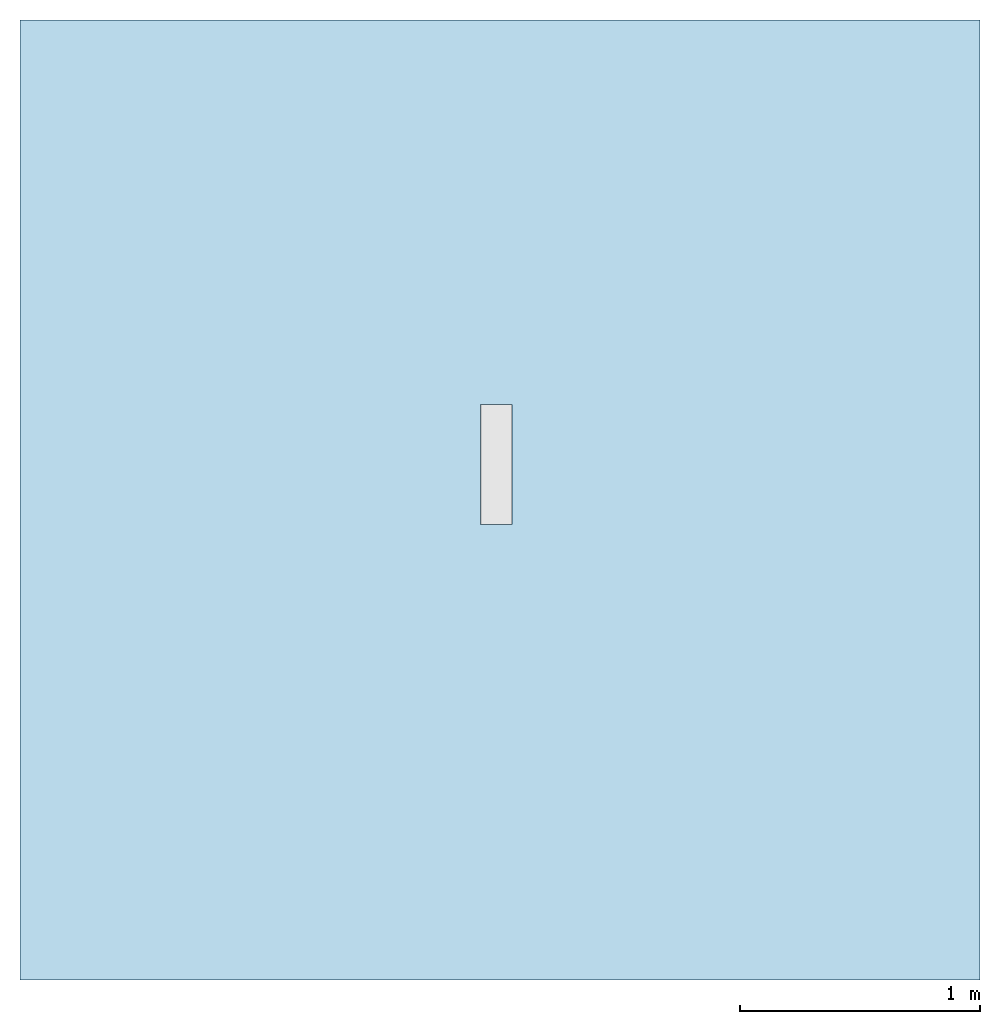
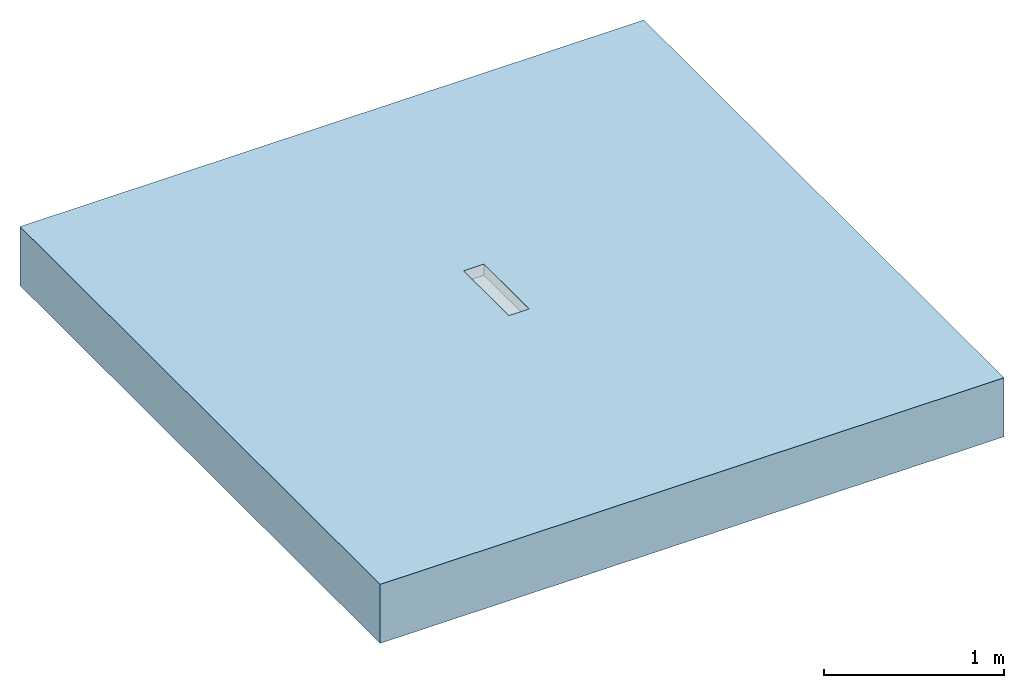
# One storey, incomplete: 1 slab.
"""IFC2X3 building model written with IfcOpenShell, lengths in millimetres."""

from ifc_helpers import new_model, entity, si_unit, converted_unit, derived_unit, direction, frame, frame_2d, origin, place, context, subcontext, project, spatial, polyline, rectangle, extrude, clip, bounded_halfspace, material, layer, layer_set, layer_usage, element, save


model = new_model("IFC2X3")

# Units and contexts
model_context = context("Model", 3, precision=1e-05, world=origin(), true_north=direction((2.0, 6.12303176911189e-17, 1.0)))
context_of_model = context(None, 3, precision=1e-05, world=origin(), true_north=direction((2.0, 6.12303176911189e-17, 1.0)))
body_context = subcontext(model_context, "Body", "Model", "MODEL_VIEW")
ifc_project = project(units=[si_unit("LENGTHUNIT", "METRE", prefix="MILLI"), si_unit("AREAUNIT", "SQUARE_METRE"), si_unit("VOLUMEUNIT", "CUBIC_METRE"), converted_unit("PLANEANGLEUNIT", "DEGREE", entity("IfcRatioMeasure", 0.0174532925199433), si_unit("PLANEANGLEUNIT", "RADIAN"), dimensions=[0, 0, 0, 0, 0, 0, 0]), si_unit("MASSUNIT", "GRAM", prefix="KILO"), si_unit("TIMEUNIT", "SECOND"), si_unit("THERMODYNAMICTEMPERATUREUNIT", "KELVIN"), derived_unit("THERMALTRANSMITTANCEUNIT", [(si_unit("MASSUNIT", "GRAM", prefix="KILO"), 1), (si_unit("THERMODYNAMICTEMPERATUREUNIT", "KELVIN"), -1), (si_unit("TIMEUNIT", "SECOND"), -3)]), derived_unit("VOLUMETRICFLOWRATEUNIT", [(si_unit("LENGTHUNIT", "METRE"), 3), (si_unit("TIMEUNIT", "SECOND"), -1)]), si_unit("POWERUNIT", "WATT")], contexts=[model_context, context_of_model])

# Site, building, storey
site_placement = place(None, origin())
site = spatial("IfcSite", under=ifc_project, at=site_placement, Name="Default", CompositionType="ELEMENT")
building_placement = place(site_placement, origin())
building = spatial("IfcBuilding", under=site, at=building_placement, CompositionType="ELEMENT")
storey_placement = place(building_placement, origin())
storey = spatial("IfcBuildingStorey", under=building, at=storey_placement, Name="Level 1", CompositionType="ELEMENT", Elevation=0.0)

# Slab
ifc_material = material(Name="Concrete, Broom Finish")
ifc_layer = layer(ifc_material, 400.0)
ifc_layer_set = layer_set([ifc_layer], Name="Floor:Generic Floor - 400mm")
ifc_layer_usage = layer_usage(ifc_layer_set, "AXIS3", "POSITIVE", 0.0)
slab_placement = place(storey_placement, origin())
element("IfcSlab", 1, at=slab_placement, inside=storey, material=ifc_layer_usage, Name="Floor:Generic Floor - 400mm", ObjectType="Floor:Generic Floor - 400mm", PredefinedType="FLOOR", context=body_context, shape_type="Clipping", body=[
    clip(extrude(rectangle(XDim=4000.0, YDim=4000.0, at=frame_2d((3.41060513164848e-13, 0.0), x_axis=(1.0, 0.0))), frame((-42.1761383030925, 2.05004766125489, 0.0), z_axis=(0.0, 0.0, -1.0), x_axis=(0.0, 1.0, 0.0)), (0.0, 0.0, 1.0), 400.0), bounded_halfspace(frame((-122.453916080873, -101.074952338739, -75.0)), False, frame((-42.1761383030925, 2.05004766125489, 0.0), z_axis=(0.0, 0.0, -1.0), x_axis=(0.0, 1.0, 0.0)), polyline([(-103.124999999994, -80.2777777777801), (-103.124999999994, 49.7222222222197), (396.875000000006, 49.7222222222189), (396.875000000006, -80.277777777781), (-103.124999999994, -80.2777777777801)]))),
])

save(model, "model.ifc")
